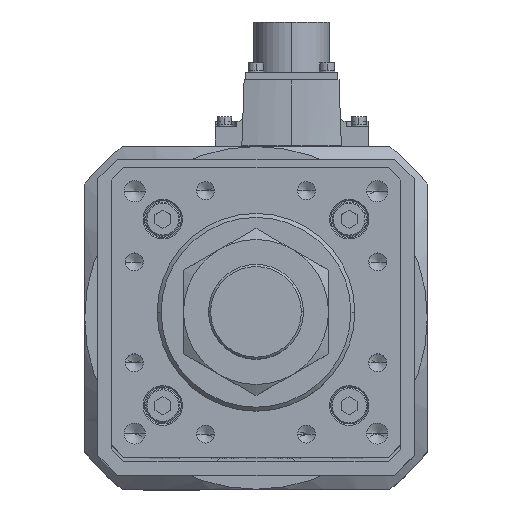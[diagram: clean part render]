
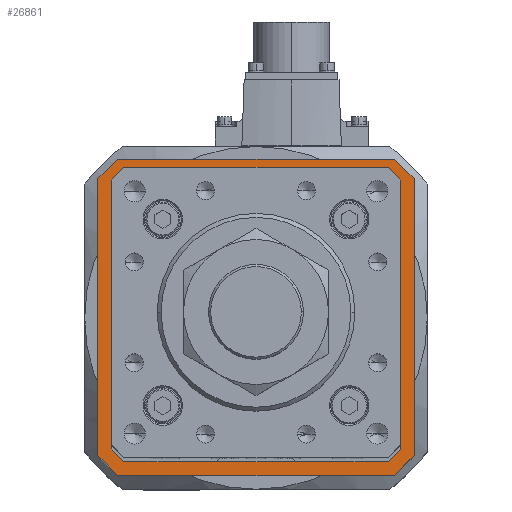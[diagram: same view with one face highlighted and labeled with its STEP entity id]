
A CAD part, top view. The second image highlights one B-rep face of the part: STEP entity #26861.
In plain terms, the highlighted planar face has unit normal (0, 0, 1).
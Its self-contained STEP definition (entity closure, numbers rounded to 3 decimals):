
#77 = CARTESIAN_POINT ( 'NONE',  ( 53.5, -49.8, -119. ) ) ;
#196 = CARTESIAN_POINT ( 'NONE',  ( 60., 52.5, -119. ) ) ;
#739 = CARTESIAN_POINT ( 'NONE',  ( -53.646, -49.446, -119. ) ) ;
#1071 = DIRECTION ( 'NONE',  ( -0.707, 0.707, 0. ) ) ;
#1167 = VECTOR ( 'NONE', #28027, 1000. ) ;
#1287 = LINE ( 'NONE', #31917, #31301 ) ;
#1394 = VERTEX_POINT ( 'NONE', #35828 ) ;
#1607 = ORIENTED_EDGE ( 'NONE', *, *, #33053, .T. ) ;
#1812 = CARTESIAN_POINT ( 'NONE',  ( 60., -52.5, -119. ) ) ;
#1830 = CARTESIAN_POINT ( 'NONE',  ( -53.5, -49.593, -119. ) ) ;
#1993 = ORIENTED_EDGE ( 'NONE', *, *, #33103, .T. ) ;
#2021 = EDGE_CURVE ( 'NONE', #24598, #1394, #24970, .T. ) ;
#2360 = CARTESIAN_POINT ( 'NONE',  ( -52.5, -60., -119. ) ) ;
#2986 = LINE ( 'NONE', #36017, #1167 ) ;
#3834 = CARTESIAN_POINT ( 'NONE',  ( -52.5, 60., -119. ) ) ;
#4015 = VECTOR ( 'NONE', #16971, 1000. ) ;
#4298 = CARTESIAN_POINT ( 'NONE',  ( -52.5, 60., -119. ) ) ;
#4903 = CARTESIAN_POINT ( 'NONE',  ( 52.5, 60., -119. ) ) ;
#5444 = VERTEX_POINT ( 'NONE', #34098 ) ;
#5708 = ORIENTED_EDGE ( 'NONE', *, *, #6394, .F. ) ;
#6192 = CARTESIAN_POINT ( 'NONE',  ( -53.5, 49.8, -119. ) ) ;
#6394 = EDGE_CURVE ( 'NONE', #16928, #27877, #26248, .T. ) ;
#6402 = CARTESIAN_POINT ( 'NONE',  ( 49.593, -53.5, -119. ) ) ;
#6688 = CARTESIAN_POINT ( 'NONE',  ( -60., -52.5, -119. ) ) ;
#7339 = CARTESIAN_POINT ( 'NONE',  ( 49.8, 53.5, -119. ) ) ;
#8055 = LINE ( 'NONE', #31966, #30751 ) ;
#8649 = VECTOR ( 'NONE', #30788, 1000. ) ;
#9103 = EDGE_CURVE ( 'NONE', #19516, #19348, #11102, .T. ) ;
#9169 = DIRECTION ( 'NONE',  ( -0.707, 0.707, 0. ) ) ;
#10196 = CARTESIAN_POINT ( 'NONE',  ( -53.5, 49.593, -119. ) ) ;
#10483 = LINE ( 'NONE', #7339, #8649 ) ;
#10518 = CARTESIAN_POINT ( 'NONE',  ( 52.5, 60., -119. ) ) ;
#10584 = ORIENTED_EDGE ( 'NONE', *, *, #15631, .F. ) ;
#11050 = VECTOR ( 'NONE', #14987, 1000. ) ;
#11102 = LINE ( 'NONE', #13073, #26972 ) ;
#11425 = ORIENTED_EDGE ( 'NONE', *, *, #11508, .T. ) ;
#11508 = EDGE_CURVE ( 'NONE', #26520, #32012, #2986, .T. ) ;
#11550 = VERTEX_POINT ( 'NONE', #4903 ) ;
#12078 = ORIENTED_EDGE ( 'NONE', *, *, #9103, .F. ) ;
#12254 = EDGE_LOOP ( 'NONE', ( #10584, #14733, #25685, #13188, #12078, #17134, #5708, #22223 ) ) ;
#12263 = DIRECTION ( 'NONE',  ( 0.707, 0.707, 0. ) ) ;
#12661 = CARTESIAN_POINT ( 'NONE',  ( 52.5, -60., -119. ) ) ;
#12691 = VECTOR ( 'NONE', #12263, 1000. ) ;
#12697 = CARTESIAN_POINT ( 'NONE',  ( -49.8, -53.5, -119. ) ) ;
#12949 = CARTESIAN_POINT ( 'NONE',  ( 0., 0., -119. ) ) ;
#12963 = CARTESIAN_POINT ( 'NONE',  ( -49.446, 53.646, -119. ) ) ;
#13005 = FACE_OUTER_BOUND ( 'NONE', #12254, .T. ) ;
#13073 = CARTESIAN_POINT ( 'NONE',  ( 52.5, -60., -119. ) ) ;
#13100 = VERTEX_POINT ( 'NONE', #1830 ) ;
#13188 = ORIENTED_EDGE ( 'NONE', *, *, #18722, .F. ) ;
#13780 = EDGE_CURVE ( 'NONE', #13100, #29139, #22415, .T. ) ;
#14442 = VECTOR ( 'NONE', #19373, 1000. ) ;
#14511 = LINE ( 'NONE', #3834, #12691 ) ;
#14600 = VECTOR ( 'NONE', #16007, 1000. ) ;
#14733 = ORIENTED_EDGE ( 'NONE', *, *, #24627, .F. ) ;
#14883 = EDGE_CURVE ( 'NONE', #1394, #13100, #28657, .T. ) ;
#14987 = DIRECTION ( 'NONE',  ( 0., 1., 0. ) ) ;
#15486 = DIRECTION ( 'NONE',  ( 1., 0., 0. ) ) ;
#15631 = EDGE_CURVE ( 'NONE', #25401, #11550, #24982, .T. ) ;
#15751 = EDGE_CURVE ( 'NONE', #30679, #26265, #31756, .T. ) ;
#16007 = DIRECTION ( 'NONE',  ( 0.707, 0.707, 0. ) ) ;
#16928 = VERTEX_POINT ( 'NONE', #196 ) ;
#16971 = DIRECTION ( 'NONE',  ( 0., 1., 0. ) ) ;
#17134 = ORIENTED_EDGE ( 'NONE', *, *, #17335, .F. ) ;
#17335 = EDGE_CURVE ( 'NONE', #27877, #19516, #22632, .T. ) ;
#17695 = ORIENTED_EDGE ( 'NONE', *, *, #24043, .T. ) ;
#18260 = DIRECTION ( 'NONE',  ( -1., 0., 0. ) ) ;
#18582 = VECTOR ( 'NONE', #24996, 1000. ) ;
#18675 = CARTESIAN_POINT ( 'NONE',  ( 53.5, 49.593, -119. ) ) ;
#18722 = EDGE_CURVE ( 'NONE', #19348, #30679, #30639, .T. ) ;
#19348 = VERTEX_POINT ( 'NONE', #2360 ) ;
#19373 = DIRECTION ( 'NONE',  ( -0.707, -0.707, 0. ) ) ;
#19516 = VERTEX_POINT ( 'NONE', #12661 ) ;
#19567 = AXIS2_PLACEMENT_3D ( 'NONE', #12949, #21559, #15486 ) ;
#20036 = VECTOR ( 'NONE', #9169, 1000. ) ;
#20263 = CARTESIAN_POINT ( 'NONE',  ( -60., 52.5, -119. ) ) ;
#20448 = ORIENTED_EDGE ( 'NONE', *, *, #25606, .T. ) ;
#21559 = DIRECTION ( 'NONE',  ( 0., 0., 1. ) ) ;
#21695 = VECTOR ( 'NONE', #28916, 1000. ) ;
#21793 = EDGE_LOOP ( 'NONE', ( #1993, #11425, #17695, #20448, #24365, #32827, #32539, #1607 ) ) ;
#22166 = DIRECTION ( 'NONE',  ( 0., -1., 0. ) ) ;
#22211 = VECTOR ( 'NONE', #18260, 1000. ) ;
#22223 = ORIENTED_EDGE ( 'NONE', *, *, #22969, .F. ) ;
#22302 = LINE ( 'NONE', #12963, #14600 ) ;
#22415 = LINE ( 'NONE', #6192, #11050 ) ;
#22632 = LINE ( 'NONE', #1812, #14442 ) ;
#22969 = EDGE_CURVE ( 'NONE', #11550, #16928, #1287, .T. ) ;
#22972 = VECTOR ( 'NONE', #1071, 1000. ) ;
#24043 = EDGE_CURVE ( 'NONE', #32012, #5444, #37110, .T. ) ;
#24365 = ORIENTED_EDGE ( 'NONE', *, *, #2021, .T. ) ;
#24598 = VERTEX_POINT ( 'NONE', #6402 ) ;
#24625 = PLANE ( 'NONE',  #19567 ) ;
#24627 = EDGE_CURVE ( 'NONE', #26265, #25401, #14511, .T. ) ;
#24970 = LINE ( 'NONE', #12697, #22211 ) ;
#24982 = LINE ( 'NONE', #10518, #18582 ) ;
#24996 = DIRECTION ( 'NONE',  ( 1., 0., 0. ) ) ;
#25005 = VERTEX_POINT ( 'NONE', #37591 ) ;
#25401 = VERTEX_POINT ( 'NONE', #4298 ) ;
#25606 = EDGE_CURVE ( 'NONE', #5444, #24598, #8055, .T. ) ;
#25685 = ORIENTED_EDGE ( 'NONE', *, *, #15751, .F. ) ;
#25796 = DIRECTION ( 'NONE',  ( -0.707, -0.707, 0. ) ) ;
#26248 = LINE ( 'NONE', #31159, #33020 ) ;
#26265 = VERTEX_POINT ( 'NONE', #20263 ) ;
#26520 = VERTEX_POINT ( 'NONE', #33665 ) ;
#26861 = ADVANCED_FACE ( 'NONE', ( #32477, #13005 ), #24625, .T. ) ;
#26972 = VECTOR ( 'NONE', #33330, 1000. ) ;
#27877 = VERTEX_POINT ( 'NONE', #32830 ) ;
#28027 = DIRECTION ( 'NONE',  ( 0.707, -0.707, 0. ) ) ;
#28657 = LINE ( 'NONE', #739, #20036 ) ;
#28916 = DIRECTION ( 'NONE',  ( 0., -1., 0. ) ) ;
#29002 = DIRECTION ( 'NONE',  ( 0.707, -0.707, 0. ) ) ;
#29139 = VERTEX_POINT ( 'NONE', #10196 ) ;
#30639 = LINE ( 'NONE', #35876, #22972 ) ;
#30679 = VERTEX_POINT ( 'NONE', #6688 ) ;
#30751 = VECTOR ( 'NONE', #25796, 1000. ) ;
#30788 = DIRECTION ( 'NONE',  ( 1., 0., 0. ) ) ;
#31159 = CARTESIAN_POINT ( 'NONE',  ( 60., 52.5, -119. ) ) ;
#31301 = VECTOR ( 'NONE', #29002, 1000. ) ;
#31756 = LINE ( 'NONE', #37511, #4015 ) ;
#31917 = CARTESIAN_POINT ( 'NONE',  ( 60., 52.5, -119. ) ) ;
#31966 = CARTESIAN_POINT ( 'NONE',  ( 49.446, -53.646, -119. ) ) ;
#32012 = VERTEX_POINT ( 'NONE', #18675 ) ;
#32477 = FACE_BOUND ( 'NONE', #21793, .T. ) ;
#32539 = ORIENTED_EDGE ( 'NONE', *, *, #13780, .T. ) ;
#32827 = ORIENTED_EDGE ( 'NONE', *, *, #14883, .T. ) ;
#32830 = CARTESIAN_POINT ( 'NONE',  ( 60., -52.5, -119. ) ) ;
#33020 = VECTOR ( 'NONE', #22166, 1000. ) ;
#33053 = EDGE_CURVE ( 'NONE', #29139, #25005, #22302, .T. ) ;
#33103 = EDGE_CURVE ( 'NONE', #25005, #26520, #10483, .T. ) ;
#33330 = DIRECTION ( 'NONE',  ( -1., 0., 0. ) ) ;
#33665 = CARTESIAN_POINT ( 'NONE',  ( 49.593, 53.5, -119. ) ) ;
#34098 = CARTESIAN_POINT ( 'NONE',  ( 53.5, -49.593, -119. ) ) ;
#35828 = CARTESIAN_POINT ( 'NONE',  ( -49.593, -53.5, -119. ) ) ;
#35876 = CARTESIAN_POINT ( 'NONE',  ( -52.5, -60., -119. ) ) ;
#36017 = CARTESIAN_POINT ( 'NONE',  ( 53.646, 49.446, -119. ) ) ;
#37110 = LINE ( 'NONE', #77, #21695 ) ;
#37511 = CARTESIAN_POINT ( 'NONE',  ( -60., 52.5, -119. ) ) ;
#37591 = CARTESIAN_POINT ( 'NONE',  ( -49.593, 53.5, -119. ) ) ;
